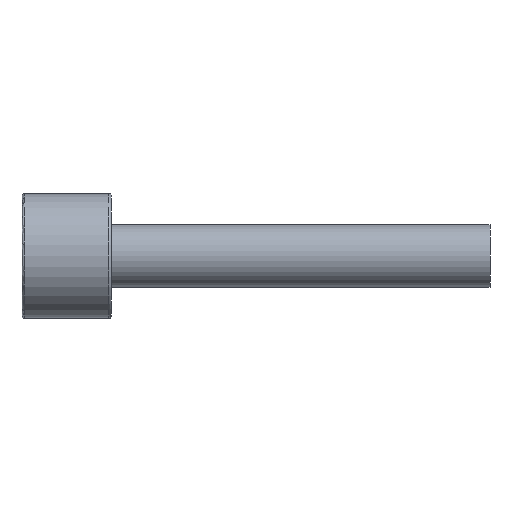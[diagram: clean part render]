
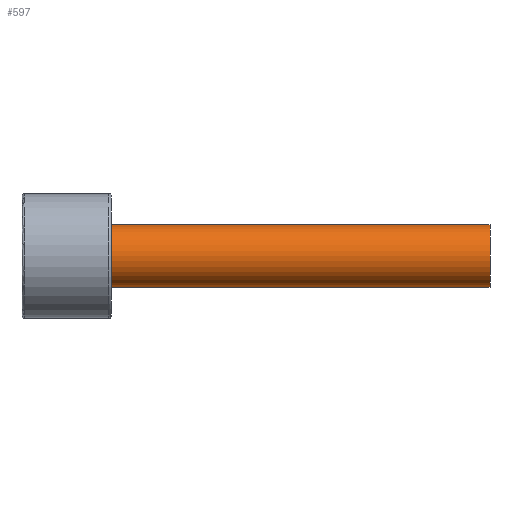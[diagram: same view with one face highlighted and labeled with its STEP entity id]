
A CAD part, front view. The second image highlights one B-rep face of the part: STEP entity #597.
In plain terms, the highlighted cylindrical face has radius 7 mm (diameter 14 mm), a partial arc.
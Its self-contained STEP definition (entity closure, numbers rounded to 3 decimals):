
#431=CARTESIAN_POINT('Vertex',(105.,0.,7.)) ;
#434=CARTESIAN_POINT('Axis2P3D Location',(105.,0.,0.)) ;
#438=CARTESIAN_POINT('Vertex',(105.,-7.,0.)) ;
#441=CARTESIAN_POINT('Axis2P3D Location',(105.,0.,0.)) ;
#445=CARTESIAN_POINT('Vertex',(105.,0.,-7.)) ;
#537=CARTESIAN_POINT('Line Origine',(105.,0.,7.)) ;
#541=CARTESIAN_POINT('Vertex',(20.,0.,7.)) ;
#544=CARTESIAN_POINT('Line Origine',(105.,0.,-7.)) ;
#548=CARTESIAN_POINT('Vertex',(20.,0.,-7.)) ;
#572=CARTESIAN_POINT('Axis2P3D Location',(105.,0.,0.)) ;
#577=CARTESIAN_POINT('Axis2P3D Location',(20.,0.,0.)) ;
#581=CARTESIAN_POINT('Vertex',(20.,-7.,0.)) ;
#584=CARTESIAN_POINT('Axis2P3D Location',(20.,0.,0.)) ;
#435=DIRECTION('Axis2P3D Direction',(1.,0.,-0.)) ;
#442=DIRECTION('Axis2P3D Direction',(1.,0.,-0.)) ;
#538=DIRECTION('Vector Direction',(-1.,0.,0.)) ;
#545=DIRECTION('Vector Direction',(-1.,0.,0.)) ;
#573=DIRECTION('Axis2P3D Direction',(-1.,-0.,-0.)) ;
#574=DIRECTION('Axis2P3D XDirection',(0.,0.,-1.)) ;
#578=DIRECTION('Axis2P3D Direction',(-1.,-0.,-0.)) ;
#585=DIRECTION('Axis2P3D Direction',(-1.,-0.,-0.)) ;
#436=AXIS2_PLACEMENT_3D('Circle Axis2P3D',#434,#435,$) ;
#443=AXIS2_PLACEMENT_3D('Circle Axis2P3D',#441,#442,$) ;
#575=AXIS2_PLACEMENT_3D('Cylinder Axis2P3D',#572,#573,#574) ;
#579=AXIS2_PLACEMENT_3D('Circle Axis2P3D',#577,#578,$) ;
#586=AXIS2_PLACEMENT_3D('Circle Axis2P3D',#584,#585,$) ;
#590=ORIENTED_EDGE('',*,*,#550,.T.) ;
#591=ORIENTED_EDGE('',*,*,#447,.F.) ;
#592=ORIENTED_EDGE('',*,*,#440,.F.) ;
#593=ORIENTED_EDGE('',*,*,#543,.T.) ;
#594=ORIENTED_EDGE('',*,*,#583,.T.) ;
#595=ORIENTED_EDGE('',*,*,#588,.T.) ;
#539=VECTOR('Line Direction',#538,1.) ;
#546=VECTOR('Line Direction',#545,1.) ;
#597=ADVANCED_FACE('367F-14X105',(#596),#576,.T.) ;
#437=CIRCLE('generated circle',#436,7.) ;
#444=CIRCLE('generated circle',#443,7.) ;
#580=CIRCLE('generated circle',#579,7.) ;
#587=CIRCLE('generated circle',#586,7.) ;
#576=CYLINDRICAL_SURFACE('generated cylinder',#575,7.) ;
#440=EDGE_CURVE('',#432,#439,#437,.T.) ;
#447=EDGE_CURVE('',#439,#446,#444,.T.) ;
#543=EDGE_CURVE('',#432,#542,#540,.T.) ;
#550=EDGE_CURVE('',#549,#446,#547,.F.) ;
#583=EDGE_CURVE('',#542,#582,#580,.F.) ;
#588=EDGE_CURVE('',#582,#549,#587,.F.) ;
#589=EDGE_LOOP('',(#590,#591,#592,#593,#594,#595)) ;
#596=FACE_OUTER_BOUND('',#589,.T.) ;
#540=LINE('Line',#537,#539) ;
#547=LINE('Line',#544,#546) ;
#432=VERTEX_POINT('',#431) ;
#439=VERTEX_POINT('',#438) ;
#446=VERTEX_POINT('',#445) ;
#542=VERTEX_POINT('',#541) ;
#549=VERTEX_POINT('',#548) ;
#582=VERTEX_POINT('',#581) ;
